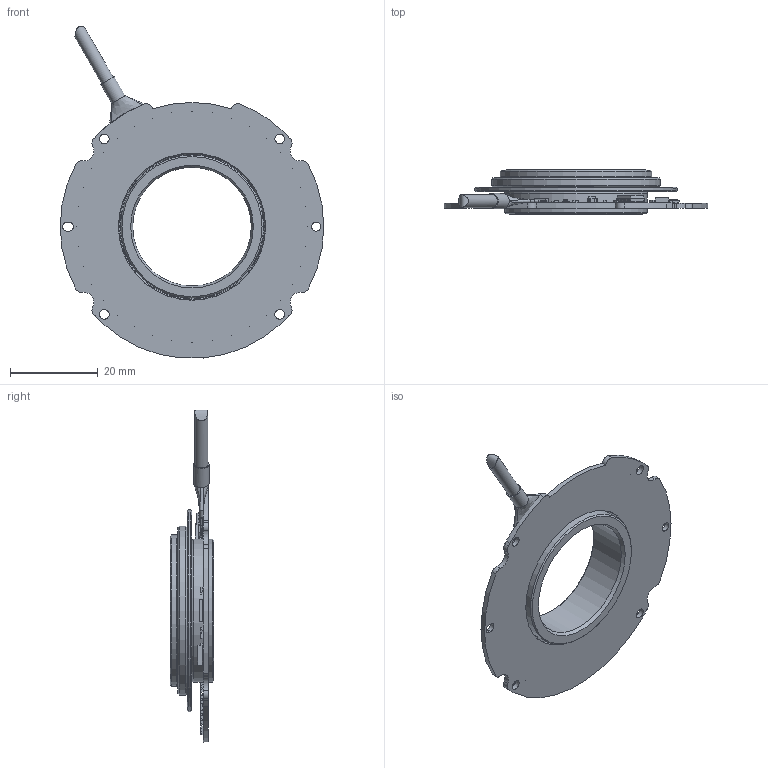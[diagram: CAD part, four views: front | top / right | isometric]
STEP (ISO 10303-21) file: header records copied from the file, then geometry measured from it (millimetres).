
FILE_DESCRIPTION(/* description */ (''),/* implementation_level */ '2;1');
FILE_NAME(/* name */ 'C:\Users\DonatasG\OneDrive - UAB Precizika Metrology\Documents\PRODUCTS\CUSTOM ENCODERS\WESENSE Motion\HPO-60K (LEVEL_0)\DRAWINGS\HPO-60K_REV.01.stp',/* time_stamp */ '2024-01-26T08:48:19+02:00',/* author */ ('DonatasG'),/* organization */ (''),/* preprocessor_version */ 'ST-DEVELOPER v19',/* originating_system */ 'Autodesk Inventor 2023',/* authorisation */ '');
FILE_SCHEMA (('AUTOMOTIVE_DESIGN { 1 0 10303 214 3 1 1 }'));
Length unit declared in the file: millimetre
Products named in the file (118): HPO-60K.00.00 SB; HPO-65K.02.00 SB; HPO-65K.02.01; AKW.FMC.00.03; HPO-79K.2PZM.CL3.C.PZ25S; Board; Open CASCADE STEP translator 7.5 1.1.1; C4; 6321141456; Extruded; 6321141216; Extruded_1; U3; MAX3490AEGSA+; U2; 6243202688; U1; 6243200608; R13; 6321140656; Extruded_2; 6321140416; Extruded_3; R12; R11; R10; R9; R8; R7; R6; R5; 6321143296; Extruded_4; 6321143056; Extruded_5; R4; 6323195888; Extruded_6; 6323195728; Extruded_7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
Assembly tree (245 placements, depth 5):
  HPO-60K.00.00 SB
    HPO-65K.02.00 SB
      HPO-65K.02.01
      AKW.FMC.00.03
    HPO-79K.2PZM.CL3.C.PZ25S
      Board
        Open CASCADE STEP translator 7.5 1.1.1
      C4
        6321141456  x2
          Extruded
        6321141216
          Extruded_1
      U3
        MAX3490AEGSA+
      U2
        6243202688
      U1
        6243200608
      R13
        6321140656  x2
          Extruded_2
        6321140416
          Extruded_3
      R12
        6321143696
          Extruded_8
        6321143536  x2
          Extruded_9
      R11
        6321143536  x2
          Extruded_9
        6321143696
          Extruded_8
      R10
        6321143696
          Extruded_8
        6321143536  x2
          Extruded_9
      R9
        6321143296  x2
          Extruded_4
        6321143056
          Extruded_5
      R8
        6321143296  x2
          Extruded_4
        6321143056
          Extruded_5
      R7
        6321143296  x2
          Extruded_4
        6321143056
          Extruded_5
      R6
        6321143296  x2
          Extruded_4
        6321143056
          Extruded_5
      R5
        6321143296  x2
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Bounding box: 60.02 x 10 x 75.58 mm (x, y, z)
Volume: 6685.2 mm3; surface area: 10028.5 mm2
Topology: 322 solids, 322 shells, 1616 faces, 3586 edges, 2369 vertices
Faces by surface type: plane 1263, cylinder 173, sphere 148, cone 24, bspline 5, torus 3
Full cylindrical faces by diameter (mm): 0.163 x1, 0.353 x1, 0.4 x7, 0.5 x7, 0.9 x16, 1.567 x3, 2.1 x1, 2.2 x4, 3 x1, 3.5 x1, 27 x1, 31.9 x1, 32.5 x1, 33 x1, 33.5 x1, 34.5 x1, 38.5 x1, 38.8 x1, 43.8 x1, 46 x1, 52.6 x1
Entity records: 28185 total; most frequent: DIRECTION 4704, CARTESIAN_POINT 4524, ORIENTED_EDGE 3510, EDGE_CURVE 1755, AXIS2_PLACEMENT_3D 1745, VERTEX_POINT 1345, LINE 1214, VECTOR 1214
